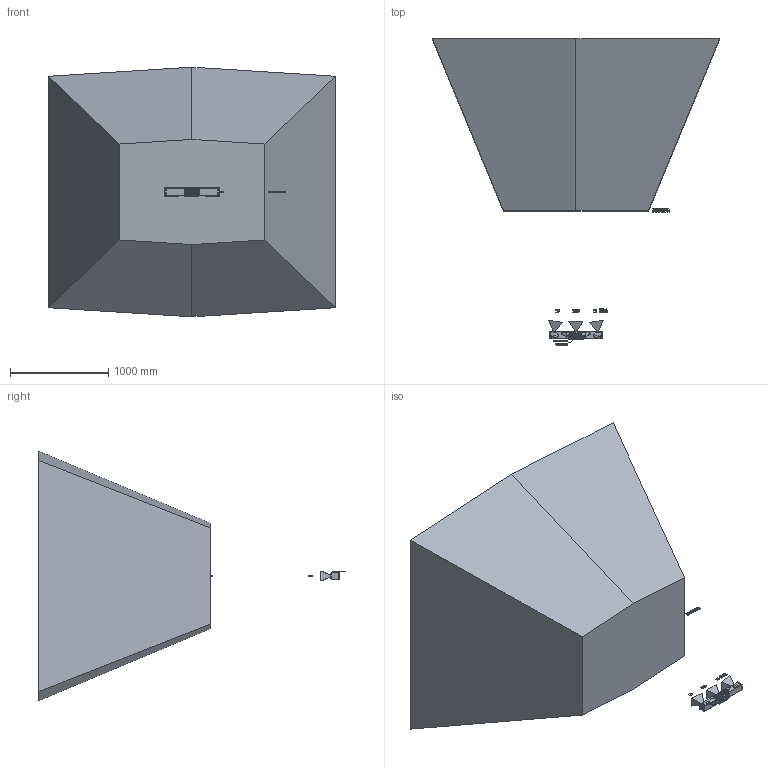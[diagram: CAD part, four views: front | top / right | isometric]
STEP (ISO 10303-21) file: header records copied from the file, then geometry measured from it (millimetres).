
FILE_DESCRIPTION((''),'1');
FILE_NAME('#1423221685','#2021-09-15T19:44:31',(''),(''),' UNKOWN, 1',' UNKOWN, 1','');
FILE_SCHEMA((' CONFIG_CONTROL_DESIGN'));
Products named in the file (1): PM802-E1 45cm V1
Bounding box: 2921.22 x 3116.16 x 2537.33 mm (x, y, z)
Surface area: 16564621.7 mm2 (no closed solid volume)
Topology: 0 solids, 98 shells, 5414 faces, 15289 edges, 10368 vertices
Faces by surface type: plane 2560, bspline 1851, cylinder 814, cone 171, torus 17, sphere 1
Entity records: 414017 total; most frequent: CARTESIAN_POINT 288889, ORIENTED_EDGE 30502, DIRECTION 18084, EDGE_CURVE 15260, VERTEX_POINT 10366, LINE 7594, VECTOR 7594, B_SPLINE_CURVE_WITH_KNOTS 5951
